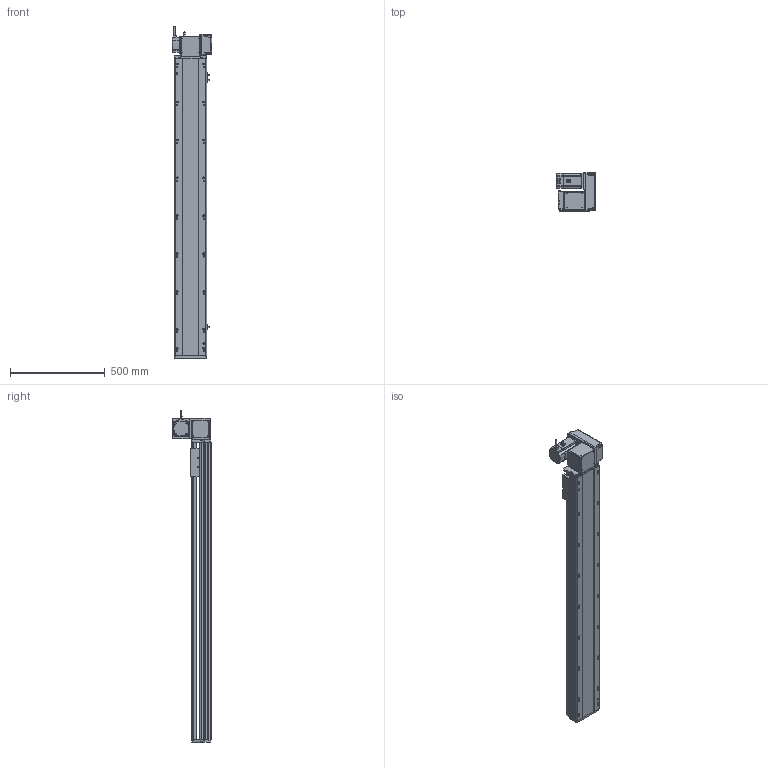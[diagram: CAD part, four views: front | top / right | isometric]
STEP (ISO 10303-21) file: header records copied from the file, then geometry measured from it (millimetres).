
FILE_DESCRIPTION (( 'STEP AP214' ), '1' );
FILE_NAME ('RTB17S-XX-1300-RW-M75-C4.STEP', '2025-12-12T02:37:53', ( '' ), ( '' ), 'SwSTEP 2.0', 'SolidWorks 2018', '' );
FILE_SCHEMA (( 'AUTOMOTIVE_DESIGN' ));
Length unit declared in the file: millimetre
Products named in the file (15): RTH13-BL-012覜茼え俋离^RTB17S-賑釱_RTB17S-XX-XX-RW-M75-C4; RTB17S-L-001-耜醱啣^RTB17S-XX-XX-RW-M75-C4; RTB17S-XX-1300-RW-M75-C4; RTB17S-L-004-賑釱^RTB17S-賑釱_RTB17S-XX-XX-RW-M75-C4; RTB22S-GY-018P^RTB17S-RW-々湍釱蚾饜-750W_RTB17S-XX-XX-RW-M75-C4; RTB17-R-011菁釱^RTB17S-XX-XX-RW-M75-C4; RTB22S-GY-017P^RTB17S-RW-々湍釱蚾饜-750W_RTB17S-XX-XX-RW-M75-C4; RTB17S-L-007奻裔^RTB17S-XX-XX-RW-M75-C4; RMP17S-L-014-T20-P75--々湍釱^RTB17S-RW-々湍釱蚾饜-750W_RTB17S-XX-XX-RW-M75-C4; 750W萇儂^RTB17S-XX-XX-RW-M75-C4; RTB22S-GY-005P^RTB17S-RW-々湍釱蚾饜-750W_RTB17S-XX-XX-RW-M75-C4; RTB17S-RW-々湍釱蚾饜-750W^RTB17S-XX-XX-RW-M75-C4; EE672^RTB17S-XX-XX-RW-M75-C4; RTB22S-GY-008-M75--萇儂啣^RTB17S-RW-々湍釱蚾饜-750W_RTB17S-XX-XX-RW-M75-C4; RTB17S-賑釱^RTB17S-XX-XX-RW-M75-C4
Assembly tree (17 placements, depth 3):
  RTB17S-XX-1300-RW-M75-C4
    RTB17-R-011菁釱^RTB17S-XX-XX-RW-M75-C4
    EE672^RTB17S-XX-XX-RW-M75-C4  x3
    RTB17S-L-001-耜醱啣^RTB17S-XX-XX-RW-M75-C4
    RTB17S-賑釱^RTB17S-XX-XX-RW-M75-C4
      RTB17S-L-004-賑釱^RTB17S-賑釱_RTB17S-XX-XX-RW-M75-C4
      RTH13-BL-012覜茼え俋离^RTB17S-賑釱_RTB17S-XX-XX-RW-M75-C4
    RTB17S-L-007奻裔^RTB17S-XX-XX-RW-M75-C4
    750W萇儂^RTB17S-XX-XX-RW-M75-C4
    RTB17S-RW-々湍釱蚾饜-750W^RTB17S-XX-XX-RW-M75-C4
      RMP17S-L-014-T20-P75--々湍釱^RTB17S-RW-々湍釱蚾饜-750W_RTB17S-XX-XX-RW-M75-C4
      RTB22S-GY-005P^RTB17S-RW-々湍釱蚾饜-750W_RTB17S-XX-XX-RW-M75-C4
      RTB22S-GY-017P^RTB17S-RW-々湍釱蚾饜-750W_RTB17S-XX-XX-RW-M75-C4  x2
      RTB22S-GY-008-M75--萇儂啣^RTB17S-RW-々湍釱蚾饜-750W_RTB17S-XX-XX-RW-M75-C4
      RTB22S-GY-018P^RTB17S-RW-々湍釱蚾饜-750W_RTB17S-XX-XX-RW-M75-C4
Bounding box: 207.4 x 201.5 x 1752.2 mm (x, y, z)
Volume: 14073865.6 mm3; surface area: 2440317.1 mm2
Topology: 17 solids, 17 shells, 2121 faces, 5890 edges, 3806 vertices
Faces by surface type: plane 974, cylinder 731, bspline 294, cone 110, sphere 8, torus 4
Entity records: 59638 total; most frequent: CARTESIAN_POINT 17554, ORIENTED_EDGE 8624, DIRECTION 8042, EDGE_CURVE 4312, AXIS2_PLACEMENT_3D 2826, VERTEX_POINT 2810, VECTOR 2390, LINE 2390
